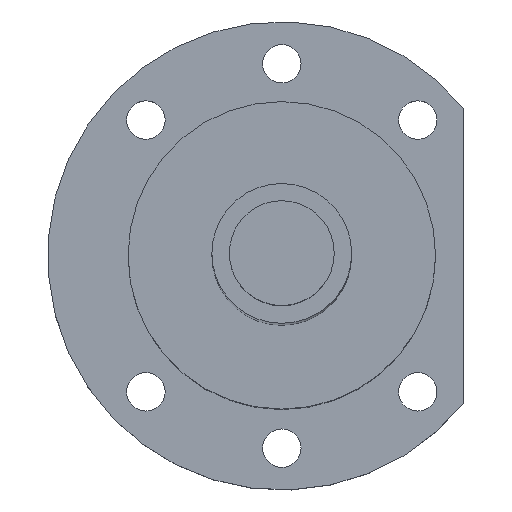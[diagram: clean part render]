
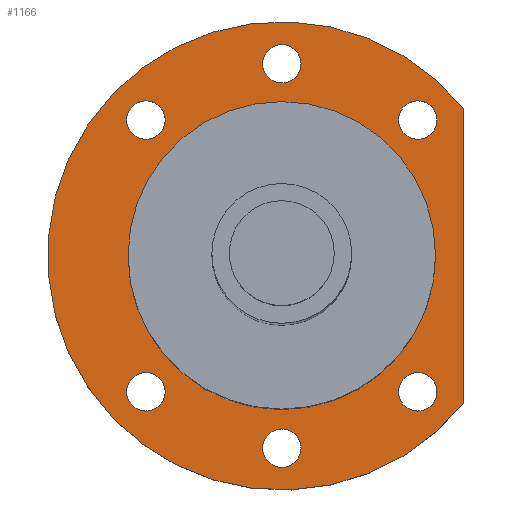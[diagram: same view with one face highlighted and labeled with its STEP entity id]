
A CAD part, top view. The second image highlights one B-rep face of the part: STEP entity #1166.
In plain terms, the highlighted planar face has unit normal (0, 0, 1).
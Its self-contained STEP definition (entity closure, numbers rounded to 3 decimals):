
#162=CARTESIAN_POINT('',(19.445,19.445,256.5));
#163=DIRECTION('',(0.,0.,-1.));
#164=DIRECTION('',(1.,0.,0.));
#165=AXIS2_PLACEMENT_3D('',#162,#163,#164);
#167=CARTESIAN_POINT('',(19.445,19.445,256.5));
#168=DIRECTION('',(0.,0.,-1.));
#169=DIRECTION('',(-1.,0.,0.));
#170=AXIS2_PLACEMENT_3D('',#167,#168,#169);
#172=CARTESIAN_POINT('',(0.,27.5,256.5));
#173=DIRECTION('',(0.,0.,-1.));
#174=DIRECTION('',(1.,0.,0.));
#175=AXIS2_PLACEMENT_3D('',#172,#173,#174);
#177=CARTESIAN_POINT('',(0.,27.5,256.5));
#178=DIRECTION('',(0.,0.,-1.));
#179=DIRECTION('',(-1.,0.,0.));
#180=AXIS2_PLACEMENT_3D('',#177,#178,#179);
#182=CARTESIAN_POINT('',(-19.445,19.445,256.5));
#183=DIRECTION('',(0.,0.,-1.));
#184=DIRECTION('',(1.,0.,0.));
#185=AXIS2_PLACEMENT_3D('',#182,#183,#184);
#187=CARTESIAN_POINT('',(-19.445,19.445,256.5));
#188=DIRECTION('',(0.,0.,-1.));
#189=DIRECTION('',(-1.,0.,0.));
#190=AXIS2_PLACEMENT_3D('',#187,#188,#189);
#192=CARTESIAN_POINT('',(-19.445,-19.445,256.5));
#193=DIRECTION('',(0.,0.,-1.));
#194=DIRECTION('',(1.,0.,0.));
#195=AXIS2_PLACEMENT_3D('',#192,#193,#194);
#197=CARTESIAN_POINT('',(-19.445,-19.445,256.5));
#198=DIRECTION('',(0.,0.,-1.));
#199=DIRECTION('',(-1.,0.,0.));
#200=AXIS2_PLACEMENT_3D('',#197,#198,#199);
#202=CARTESIAN_POINT('',(0.,-27.5,256.5));
#203=DIRECTION('',(0.,0.,-1.));
#204=DIRECTION('',(1.,0.,0.));
#205=AXIS2_PLACEMENT_3D('',#202,#203,#204);
#207=CARTESIAN_POINT('',(0.,-27.5,256.5));
#208=DIRECTION('',(0.,0.,-1.));
#209=DIRECTION('',(-1.,0.,0.));
#210=AXIS2_PLACEMENT_3D('',#207,#208,#209);
#212=CARTESIAN_POINT('',(19.445,-19.445,256.5));
#213=DIRECTION('',(0.,0.,-1.));
#214=DIRECTION('',(1.,0.,0.));
#215=AXIS2_PLACEMENT_3D('',#212,#213,#214);
#217=CARTESIAN_POINT('',(19.445,-19.445,256.5));
#218=DIRECTION('',(0.,0.,-1.));
#219=DIRECTION('',(-1.,0.,0.));
#220=AXIS2_PLACEMENT_3D('',#217,#218,#219);
#222=CARTESIAN_POINT('',(0.,0.,256.5));
#223=DIRECTION('',(0.,0.,1.));
#224=DIRECTION('',(0.776,0.631,0.));
#225=AXIS2_PLACEMENT_3D('',#222,#223,#224);
#227=DIRECTION('',(0.,1.,0.));
#228=VECTOR('',#227,42.249);
#229=CARTESIAN_POINT('',(26.,-21.125,256.5));
#230=LINE('',#229,#228);
#231=CARTESIAN_POINT('',(0.,0.,256.5));
#232=DIRECTION('',(0.,0.,1.));
#233=DIRECTION('',(0.,-1.,0.));
#234=AXIS2_PLACEMENT_3D('',#231,#232,#233);
#236=CARTESIAN_POINT('',(0.,0.,256.5));
#237=DIRECTION('',(0.,0.,1.));
#238=DIRECTION('',(0.,1.,0.));
#239=AXIS2_PLACEMENT_3D('',#236,#237,#238);
#751=CARTESIAN_POINT('',(22.195,19.445,256.5));
#752=CARTESIAN_POINT('',(16.695,19.445,256.5));
#753=VERTEX_POINT('',#751);
#754=VERTEX_POINT('',#752);
#755=CARTESIAN_POINT('',(2.75,27.5,256.5));
#756=CARTESIAN_POINT('',(-2.75,27.5,256.5));
#757=VERTEX_POINT('',#755);
#758=VERTEX_POINT('',#756);
#759=CARTESIAN_POINT('',(-16.695,19.445,256.5));
#760=CARTESIAN_POINT('',(-22.195,19.445,256.5));
#761=VERTEX_POINT('',#759);
#762=VERTEX_POINT('',#760);
#763=CARTESIAN_POINT('',(-16.695,-19.445,256.5));
#764=CARTESIAN_POINT('',(-22.195,-19.445,256.5));
#765=VERTEX_POINT('',#763);
#766=VERTEX_POINT('',#764);
#767=CARTESIAN_POINT('',(2.75,-27.5,256.5));
#768=CARTESIAN_POINT('',(-2.75,-27.5,256.5));
#769=VERTEX_POINT('',#767);
#770=VERTEX_POINT('',#768);
#771=CARTESIAN_POINT('',(22.195,-19.445,256.5));
#772=CARTESIAN_POINT('',(16.695,-19.445,256.5));
#773=VERTEX_POINT('',#771);
#774=VERTEX_POINT('',#772);
#775=CARTESIAN_POINT('',(26.,21.125,256.5));
#776=CARTESIAN_POINT('',(26.,-21.125,256.5));
#777=VERTEX_POINT('',#775);
#778=VERTEX_POINT('',#776);
#859=CARTESIAN_POINT('',(0.,-22.,256.5));
#860=CARTESIAN_POINT('',(0.,22.,256.5));
#861=VERTEX_POINT('',#859);
#862=VERTEX_POINT('',#860);
#1115=CARTESIAN_POINT('',(0.,0.,256.5));
#1116=DIRECTION('',(0.,0.,1.));
#1117=DIRECTION('',(1.,0.,0.));
#1118=AXIS2_PLACEMENT_3D('',#1115,#1116,#1117);
#1119=PLANE('',#1118);
#1120=ORIENTED_EDGE('',*,*,#1095,.F.);
#1121=ORIENTED_EDGE('',*,*,#1109,.F.);
#1122=EDGE_LOOP('',(#1120,#1121));
#1123=FACE_OUTER_BOUND('',#1122,.F.);
#1125=ORIENTED_EDGE('',*,*,#1124,.F.);
#1127=ORIENTED_EDGE('',*,*,#1126,.F.);
#1128=EDGE_LOOP('',(#1125,#1127));
#1129=FACE_BOUND('',#1128,.F.);
#1131=ORIENTED_EDGE('',*,*,#1130,.F.);
#1133=ORIENTED_EDGE('',*,*,#1132,.F.);
#1134=EDGE_LOOP('',(#1131,#1133));
#1135=FACE_BOUND('',#1134,.F.);
#1137=ORIENTED_EDGE('',*,*,#1136,.F.);
#1139=ORIENTED_EDGE('',*,*,#1138,.F.);
#1140=EDGE_LOOP('',(#1137,#1139));
#1141=FACE_BOUND('',#1140,.F.);
#1143=ORIENTED_EDGE('',*,*,#1142,.F.);
#1145=ORIENTED_EDGE('',*,*,#1144,.F.);
#1146=EDGE_LOOP('',(#1143,#1145));
#1147=FACE_BOUND('',#1146,.F.);
#1149=ORIENTED_EDGE('',*,*,#1148,.F.);
#1151=ORIENTED_EDGE('',*,*,#1150,.F.);
#1152=EDGE_LOOP('',(#1149,#1151));
#1153=FACE_BOUND('',#1152,.F.);
#1155=ORIENTED_EDGE('',*,*,#1154,.F.);
#1157=ORIENTED_EDGE('',*,*,#1156,.F.);
#1158=EDGE_LOOP('',(#1155,#1157));
#1159=FACE_BOUND('',#1158,.F.);
#1161=ORIENTED_EDGE('',*,*,#1160,.T.);
#1163=ORIENTED_EDGE('',*,*,#1162,.T.);
#1164=EDGE_LOOP('',(#1161,#1163));
#1165=FACE_BOUND('',#1164,.F.);
#1166=ADVANCED_FACE('',(#1123,#1129,#1135,#1141,#1147,#1153,#1159,#1165),#1119,
.T.);
#166=CIRCLE('',#165,2.75);
#171=CIRCLE('',#170,2.75);
#176=CIRCLE('',#175,2.75);
#181=CIRCLE('',#180,2.75);
#186=CIRCLE('',#185,2.75);
#191=CIRCLE('',#190,2.75);
#196=CIRCLE('',#195,2.75);
#201=CIRCLE('',#200,2.75);
#206=CIRCLE('',#205,2.75);
#211=CIRCLE('',#210,2.75);
#216=CIRCLE('',#215,2.75);
#221=CIRCLE('',#220,2.75);
#226=CIRCLE('',#225,33.5);
#235=CIRCLE('',#234,22.);
#240=CIRCLE('',#239,22.);
#1095=EDGE_CURVE('',#777,#778,#226,.T.);
#1109=EDGE_CURVE('',#778,#777,#230,.T.);
#1124=EDGE_CURVE('',#753,#754,#166,.T.);
#1126=EDGE_CURVE('',#754,#753,#171,.T.);
#1130=EDGE_CURVE('',#757,#758,#176,.T.);
#1132=EDGE_CURVE('',#758,#757,#181,.T.);
#1136=EDGE_CURVE('',#761,#762,#186,.T.);
#1138=EDGE_CURVE('',#762,#761,#191,.T.);
#1142=EDGE_CURVE('',#765,#766,#196,.T.);
#1144=EDGE_CURVE('',#766,#765,#201,.T.);
#1148=EDGE_CURVE('',#769,#770,#206,.T.);
#1150=EDGE_CURVE('',#770,#769,#211,.T.);
#1154=EDGE_CURVE('',#773,#774,#216,.T.);
#1156=EDGE_CURVE('',#774,#773,#221,.T.);
#1160=EDGE_CURVE('',#861,#862,#235,.T.);
#1162=EDGE_CURVE('',#862,#861,#240,.T.);
